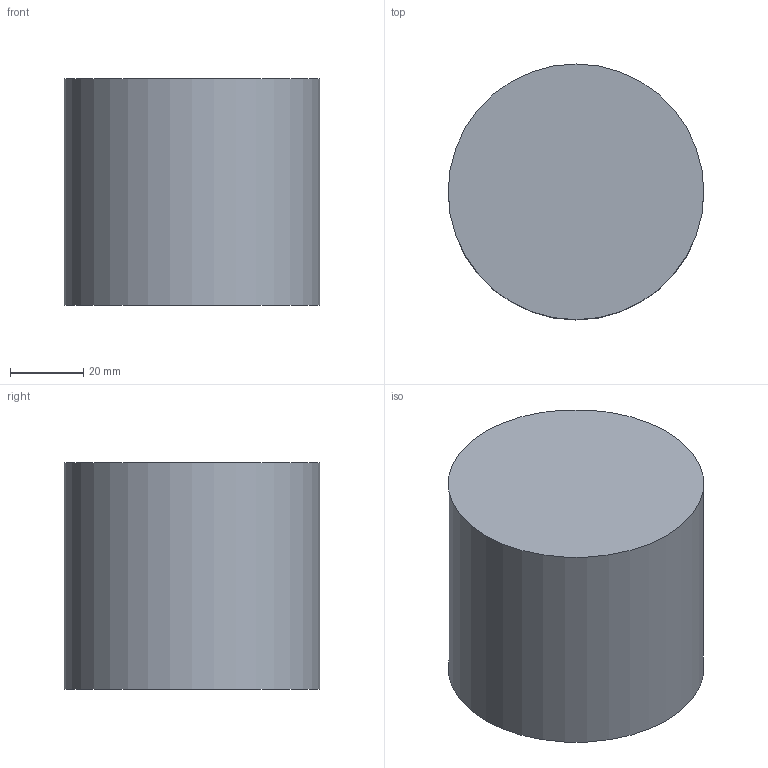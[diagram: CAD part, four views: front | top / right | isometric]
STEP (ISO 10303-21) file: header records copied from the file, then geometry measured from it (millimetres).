
FILE_DESCRIPTION(('Open CASCADE Model'),'2;1');
FILE_NAME('Open CASCADE Shape Model','2026-10-08T06:53:14',('Author'),( 'Open CASCADE'),'Open CASCADE STEP processor 7.8','Open CASCADE 7.8' ,'Unknown');
FILE_SCHEMA(('AUTOMOTIVE_DESIGN { 1 0 10303 214 1 1 1 1 }'));
Length unit declared in the file: millimetre
Products named in the file (1): Open CASCADE STEP translator 7.8 27
Bounding box: 70 x 70 x 62 mm (x, y, z)
Volume: 238604 mm3; surface area: 21331.4 mm2
Topology: 1 solids, 1 shells, 3 faces, 3 edges, 2 vertices
Faces by surface type: plane 2, cylinder 1
Full cylindrical faces by diameter (mm): 70 x1
Entity records: 108 total; most frequent: DIRECTION 19, CARTESIAN_POINT 15, AXIS2_PLACEMENT_3D 6, ORIENTED_EDGE 6, PCURVE 6, DEFINITIONAL_REPRESENTATION 6, LINE 5, VECTOR 5
